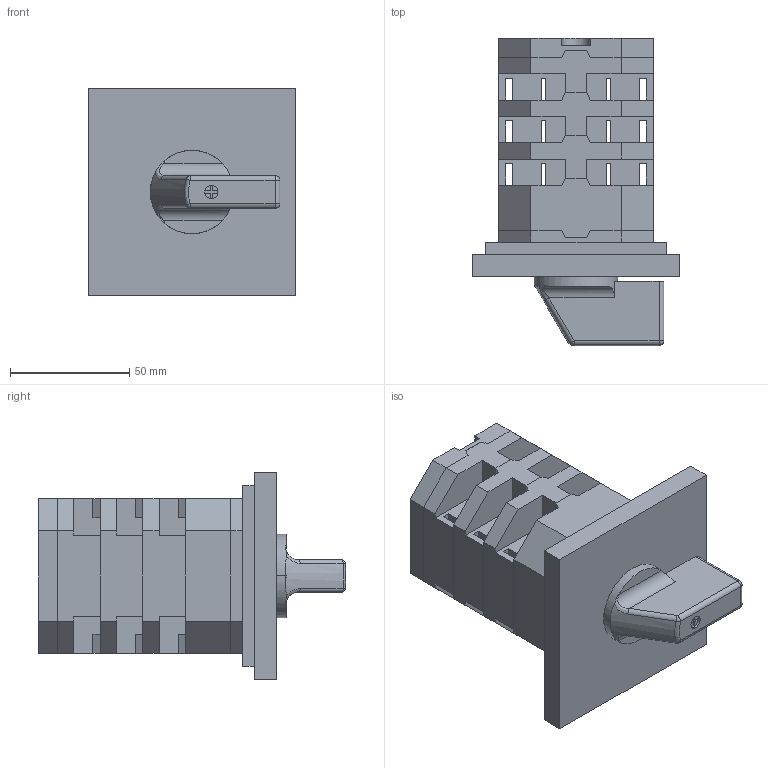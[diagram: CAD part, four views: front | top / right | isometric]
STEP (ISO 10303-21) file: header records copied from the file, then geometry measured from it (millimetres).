
FILE_DESCRIPTION (( 'STEP AP203' ), '1' );
FILE_NAME ('OptiSwitch 4G40,63,80,100 ( 3 ïàêåòà).STEP', '2015-12-11T07:41:10', ( '' ), ( '' ), 'SwSTEP 2.0', 'SolidWorks 2012', '' );
FILE_SCHEMA (( 'CONFIG_CONTROL_DESIGN' ));
Length unit declared in the file: millimetre
Products named in the file (7): äíî; OptiSwitch 4G40,63,80,100 ( 3 櫡耪蠉); Ðóêîÿòêà 214(2); 5; 4; 3; êàìåðà êîíòàêòíàÿ
Assembly tree (8 placements, depth 2):
  OptiSwitch 4G40,63,80,100 ( 3 櫡耪蠉)
    äíî
    êàìåðà êîíòàêòíàÿ  x3
    3
    4
    5
    Ðóêîÿòêà 214(2)
Bounding box: 87 x 129 x 87 mm (x, y, z)
Volume: 289729.2 mm3; surface area: 113102 mm2
Topology: 8 solids, 8 shells, 476 faces, 1303 edges, 860 vertices
Faces by surface type: plane 382, cylinder 87, sphere 4, bspline 3
Entity records: 11614 total; most frequent: CARTESIAN_POINT 2177, ORIENTED_EDGE 1806, DIRECTION 1758, EDGE_CURVE 903, LINE 712, VECTOR 712, VERTEX_POINT 596, AXIS2_PLACEMENT_3D 523
